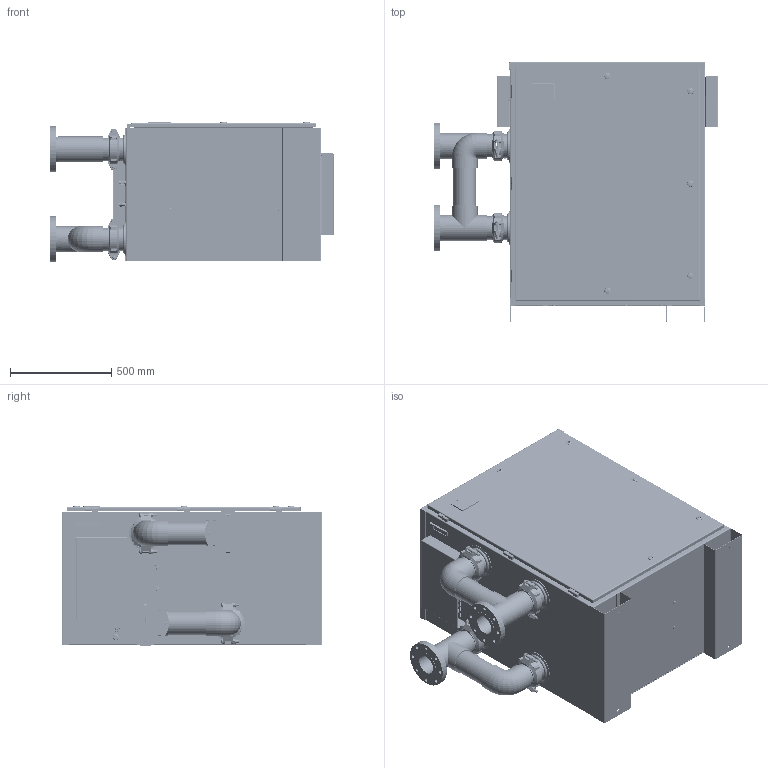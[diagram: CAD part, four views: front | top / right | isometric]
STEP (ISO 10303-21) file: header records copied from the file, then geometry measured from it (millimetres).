
FILE_DESCRIPTION (( 'STEP AP214' ), '1' );
FILE_NAME ('AOP-PRO-350D.STEP', '2019-02-28T14:57:18', ( '' ), ( '' ), 'SwSTEP 2.0', 'SolidWorks 2017', '' );
FILE_SCHEMA (( 'AUTOMOTIVE_DESIGN' ));
Length unit declared in the file: inch
Products named in the file (1): AOP-PRO-350D
Bounding box: 1405.24 x 1289.05 x 694.94 mm (x, y, z)
Surface area: 11837902.2 mm2 (no closed solid volume)
Topology: 0 solids, 538 shells, 2447 faces, 11085 edges, 8873 vertices
Faces by surface type: cylinder 870, plane 842, bspline 277, torus 204, cone 198, sphere 56
Entity records: 177278 total; most frequent: CARTESIAN_POINT 59427, DIRECTION 18012, ORIENTED_EDGE 14182, EDGE_CURVE 11017, VERTEX_POINT 8846, AXIS2_PLACEMENT_3D 6647, VECTOR 4718, LINE 4718
